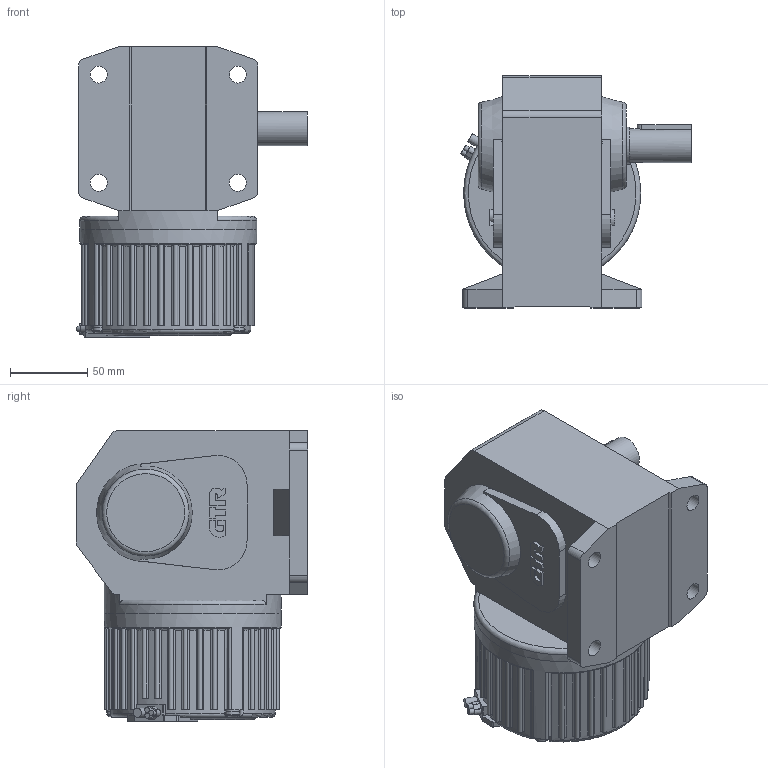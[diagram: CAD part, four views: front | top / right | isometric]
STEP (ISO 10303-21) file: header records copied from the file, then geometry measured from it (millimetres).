
FILE_DESCRIPTION( ( 'STEP AP203' ), ' ' );
FILE_NAME( 'p:/temp/worker_30/2884_4028/app_45_12018010905235173543430818fa3fd_000000_00_00_000000/format_0/VHLC22L-5N200L2.stp', '2018-01-09T04:23:53', ( '' ), ( '' ), ' ', 'PARTsolutions', ' ' );
FILE_SCHEMA( ( 'CONFIG_CONTROL_DESIGN' ) );
Length unit declared in the file: millimetre
Products named in the file (4): VHLC22L-5N200L2; _HL22L-No; _M105VP-DC_Motor case; _KEY 22
Assembly tree (3 placements, depth 2):
  VHLC22L-5N200L2
    _HL22L-No
    _M105VP-DC_Motor case
    _KEY 22
Bounding box: 149.22 x 150 x 188 mm (x, y, z)
Volume: 1929004.1 mm3; surface area: 143592.8 mm2
Topology: 3 solids, 3 shells, 436 faces, 1218 edges, 808 vertices
Faces by surface type: plane 231, cylinder 156, torus 42, cone 4, sphere 3
Full cylindrical faces by diameter (mm): 3.5 x3, 6 x1, 9.2 x3, 9.5 x3, 11 x4, 22 x1, 24 x1, 114.5 x2
Entity records: 14758 total; most frequent: CARTESIAN_POINT 3494, ORIENTED_EDGE 2354, DIRECTION 2285, EDGE_CURVE 1177, AXIS2_PLACEMENT_3D 814, VERTEX_POINT 799, LINE 657, VECTOR 657
